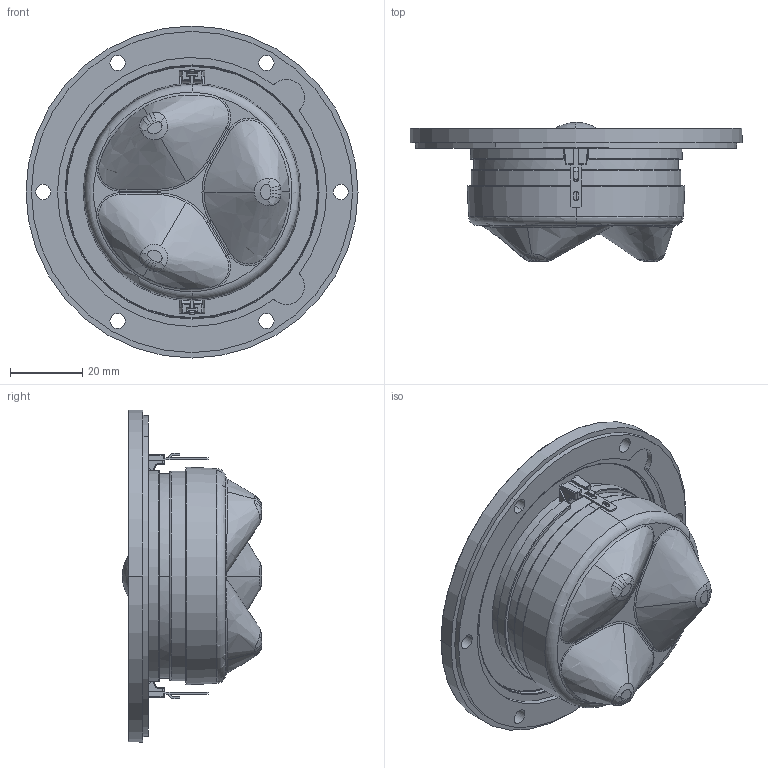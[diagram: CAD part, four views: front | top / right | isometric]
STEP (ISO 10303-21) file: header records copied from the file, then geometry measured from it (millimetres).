
FILE_DESCRIPTION (( 'STEP AP214' ), '1' );
FILE_NAME ('D2104-712000.STEP', '2020-11-24T10:04:07', ( '' ), ( '' ), 'SwSTEP 2.0', 'SolidWorks 2019', '' );
FILE_SCHEMA (( 'AUTOMOTIVE_DESIGN' ));
Length unit declared in the file: millimetre
Products named in the file (1): D2104-712000
Bounding box: 92 x 38.6 x 92 mm (x, y, z)
Volume: 90160.4 mm3; surface area: 27176 mm2
Topology: 3 solids, 9 shells, 516 faces, 1346 edges, 872 vertices
Faces by surface type: plane 199, cylinder 182, bspline 69, torus 45, cone 19, sphere 2
Entity records: 40042 total; most frequent: CARTESIAN_POINT 22249, ORIENTED_EDGE 2692, DIRECTION 2376, EDGE_CURVE 1346, AXIS2_PLACEMENT_3D 891, VERTEX_POINT 872, LINE 594, VECTOR 594
